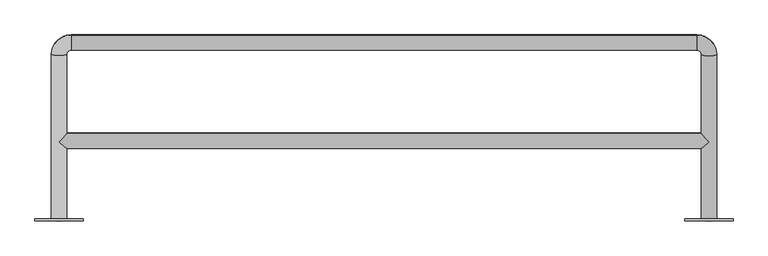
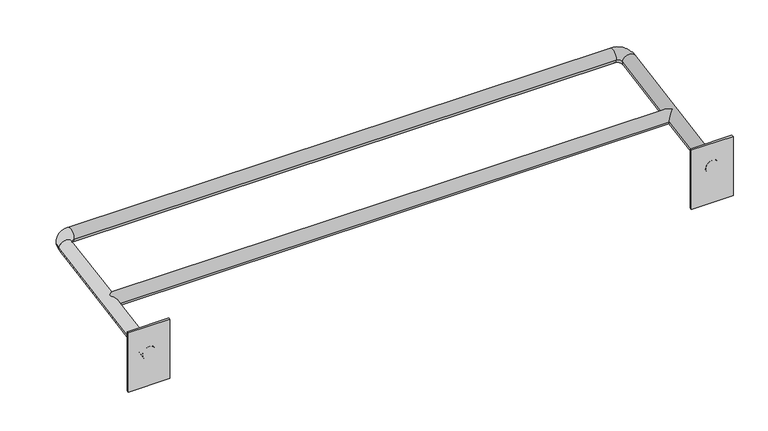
"""IFC4 building model written with IfcOpenShell, lengths in millimetres: proxy geometry, GMD-NON-HAA-Laundry Rack  for D-3 : GMD-NON-HAA-Metal Laundry Rack for D-3."""

import ifcopenshell
import ifcopenshell.guid

model = None  # the IFC model being written
_history = None  # IfcOwnerHistory: only IFC2X3 demands one
_inside = {}  # id of a spatial element -> (the spatial element, [elements in it])
_under = {}  # id of a project, library or spatial element -> (it, [spatial elements below it])
_declared = {}  # id of a project -> (the project, [libraries it declares])
_typed = {}  # id of a type object -> (the type object, [elements of that type])
_made_of = {}  # id of a material, layer set ... -> (it, [elements and type objects made of it])


def new_model(schema):
    """Start an empty IFC model of exactly this schema.

    Asked for "IFC4X3", IfcOpenShell would pick the latest addendum, in which some entities
    have other attributes; the version numbers below select the first issue.
    IFC2X3 requires an IfcOwnerHistory on every rooted entity: one is made here for all.
    """
    global model, _history
    if schema == "IFC4X3":
        model = ifcopenshell.file(schema_version=(4, 3, 0, 0))
    else:
        model = ifcopenshell.file(schema=schema)
    _inside.clear()
    _under.clear()
    _declared.clear()
    _typed.clear()
    _made_of.clear()
    _history = None
    if model.schema == "IFC2X3":
        org = make("IfcOrganization", Name="unknown")
        user = make(
            "IfcPersonAndOrganization",
            ThePerson=make("IfcPerson", FamilyName="unknown"),
            TheOrganization=org,
        )
        app = make(
            "IfcApplication",
            ApplicationDeveloper=org,
            Version="unknown",
            ApplicationFullName="unknown",
            ApplicationIdentifier="unknown",
        )
        _history = make(
            "IfcOwnerHistory",
            OwningUser=user,
            OwningApplication=app,
            ChangeAction="ADDED",
            CreationDate=0,
        )
    return model


def make(cls, **values):
    """One entity of the class cls with the attributes given. An attribute that is None is left unset."""
    return model.create_entity(
        cls, **{name: value for name, value in values.items() if value is not None}
    )


def rooted(cls, **values):
    """An entity with a GlobalId (a new one), such as an element, a storey or a relation."""
    return make(cls, GlobalId=ifcopenshell.guid.new(), OwnerHistory=_history, **values)


def si_unit(unit_type, name, prefix=None):
    """IfcSIUnit, for example si_unit("LENGTHUNIT", "METRE", prefix="MILLI")."""
    return make("IfcSIUnit", UnitType=unit_type, Prefix=prefix, Name=name)


def assignment(units):
    """IfcUnitAssignment: the units of a project."""
    return None if units is None else make("IfcUnitAssignment", Units=units)


def point(xyz):
    """IfcCartesianPoint."""
    return None if xyz is None else make("IfcCartesianPoint", Coordinates=xyz)


def direction(xyz):
    """IfcDirection."""
    return None if xyz is None else make("IfcDirection", DirectionRatios=xyz)


def frame(location, z_axis=None, x_axis=None):
    """IfcAxis2Placement3D, a coordinate frame: its origin and axes. An axis left out is left unset."""
    return make(
        "IfcAxis2Placement3D",
        Location=point(location),
        Axis=direction(z_axis),
        RefDirection=direction(x_axis),
    )


def origin():
    """The frame at (0, 0, 0) with its axes left unset."""
    return frame((0.0, 0.0, 0.0))


def place(relative_to, where):
    """IfcLocalPlacement: puts the frame where relative to a parent placement (None: the world)."""
    return make(
        "IfcLocalPlacement", PlacementRelTo=relative_to, RelativePlacement=where
    )


def context(
    kind, dimensions, precision=None, world=None, true_north=None, identifier=None
):
    """IfcGeometricRepresentationContext, for example the 3D "Model" context."""
    return make(
        "IfcGeometricRepresentationContext",
        ContextIdentifier=identifier,
        ContextType=kind,
        CoordinateSpaceDimension=dimensions,
        Precision=precision,
        WorldCoordinateSystem=world,
        TrueNorth=true_north,
    )


def project(units=None, contexts=None):
    """IfcProject with its units and contexts."""
    return rooted(
        "IfcProject",
        Name="project",
        RepresentationContexts=contexts,
        UnitsInContext=assignment(units),
    )


def spatial(cls, under=None, at=None, **own):
    """A site, building, storey or space (cls), placed at a placement, below another one or the project."""
    s = rooted(cls, ObjectPlacement=at, **own)
    if under is not None:
        _under.setdefault(under.id(), (under, []))[1].append(s)
    return s


def polyline(points):
    """IfcPolyline through the points."""
    return make("IfcPolyline", Points=[point(p) for p in points])


def circle_curve(where, radius):
    """IfcCircle in the frame where."""
    return make("IfcCircle", Position=where, Radius=radius)


def ellipse_curve(where, semi_axis1, semi_axis2):
    """IfcEllipse in the frame where."""
    return make(
        "IfcEllipse", Position=where, SemiAxis1=semi_axis1, SemiAxis2=semi_axis2
    )


def trimmed(basis, trim1, trim2, sense, master):
    """IfcTrimmedCurve: the piece of a basis curve between two trims."""
    return make(
        "IfcTrimmedCurve",
        BasisCurve=basis,
        Trim1=trim1,
        Trim2=trim2,
        SenseAgreement=sense,
        MasterRepresentation=master,
    )


def outline(outer, holes=None, kind="AREA"):
    """IfcArbitraryClosedProfileDef: a profile drawn as a closed curve; with holes, ...WithVoids."""
    if holes is None:
        return make("IfcArbitraryClosedProfileDef", ProfileType=kind, OuterCurve=outer)
    return make(
        "IfcArbitraryProfileDefWithVoids",
        ProfileType=kind,
        OuterCurve=outer,
        InnerCurves=holes,
    )


def extrude(swept, where, along, depth):
    """IfcExtrudedAreaSolid: the profile swept, set in the frame where, extruded along a direction by depth."""
    return make(
        "IfcExtrudedAreaSolid",
        SweptArea=swept,
        Position=where,
        ExtrudedDirection=direction(along),
        Depth=depth,
    )


def shape(context_of_items, identifier, shape_type, items):
    """IfcShapeRepresentation: the items that make up one representation, for example the "Body"."""
    return make(
        "IfcShapeRepresentation",
        ContextOfItems=context_of_items,
        RepresentationIdentifier=identifier,
        RepresentationType=shape_type,
        Items=items,
    )


def source(mapping_origin, context_of_items, identifier, shape_type, items):
    """IfcRepresentationMap: a shape defined once, which mapped items show again and again."""
    return make(
        "IfcRepresentationMap",
        MappingOrigin=mapping_origin,
        MappedRepresentation=shape(context_of_items, identifier, shape_type, items),
    )


def transform(
    local_origin,
    x_axis=None,
    y_axis=None,
    z_axis=None,
    scale=None,
    scale2=None,
    scale3=None,
    uniform=True,
):
    """IfcCartesianTransformationOperator3D, or its non-uniform kind. x_axis, y_axis, z_axis: its Axis1, 2, 3."""
    if uniform:
        return make(
            "IfcCartesianTransformationOperator3D",
            Axis1=direction(x_axis),
            Axis2=direction(y_axis),
            LocalOrigin=point(local_origin),
            Scale=scale,
            Axis3=direction(z_axis),
        )
    return make(
        "IfcCartesianTransformationOperator3DnonUniform",
        Axis1=direction(x_axis),
        Axis2=direction(y_axis),
        LocalOrigin=point(local_origin),
        Scale=scale,
        Axis3=direction(z_axis),
        Scale2=scale2,
        Scale3=scale3,
    )


def mapped(mapping_source, mapping_target):
    """IfcMappedItem: shows the shape of a source again, moved by a transform."""
    return make(
        "IfcMappedItem", MappingSource=mapping_source, MappingTarget=mapping_target
    )


def made_of(thing, what):
    """Note that an element or type object is made of a material, layer set ...; save() writes the relation."""
    if what is not None:
        _made_of.setdefault(what.id(), (what, []))[1].append(thing)
    return thing


def element(
    cls,
    number,
    at=None,
    inside=None,
    cuts=None,
    type_object=None,
    material=None,
    context=None,
    identifier="Body",
    shape_type=None,
    held_by="IfcProductDefinitionShape",
    body=None,
    shapes=None,
    **own,
):
    """One element of the class cls, such as IfcWall. Its Tag is "e" and its number.

    at: its placement. inside: the storey or other place that contains it. cuts: it is an
    opening in that element (IfcRelVoidsElement). A single representation is given by context,
    identifier, shape_type and body (its items); several are given by shapes. held_by: the class
    of the entity that holds the representations. save() writes the other relations.
    """
    e = rooted(cls, Tag="e%d" % number, ObjectPlacement=at, **own)
    if body is not None:
        shapes = [shape(context, identifier, shape_type, body)]
    if shapes is not None:
        e.Representation = make(held_by, Representations=shapes)
    if inside is not None:
        _inside.setdefault(inside.id(), (inside, []))[1].append(e)
    if cuts is not None:
        rooted(
            "IfcRelVoidsElement", RelatingBuildingElement=cuts, RelatedOpeningElement=e
        )
    if type_object is not None:
        _typed.setdefault(type_object.id(), (type_object, []))[1].append(e)
    return made_of(e, material)


def aggregate(whole, parts):
    """IfcRelAggregates: a whole, such as a stair, and the parts it consists of."""
    return rooted("IfcRelAggregates", RelatingObject=whole, RelatedObjects=parts)


def save(model, path):
    """Write the relations noted so far, then the file.

    IfcRelAggregates (storeys below a building ...), IfcRelContainedInSpatialStructure (elements
    in a storey), IfcRelDefinesByType, IfcRelAssociatesMaterial and IfcRelDeclares: one each for
    every whole, place, type object, material and project.
    """
    for whole, parts in _under.values():
        aggregate(whole, parts)
    for where, things in _inside.values():
        rooted(
            "IfcRelContainedInSpatialStructure",
            RelatedElements=things,
            RelatingStructure=where,
        )
    for kind, things in _typed.values():
        rooted("IfcRelDefinesByType", RelatedObjects=things, RelatingType=kind)
    for what, things in _made_of.values():
        rooted("IfcRelAssociatesMaterial", RelatedObjects=things, RelatingMaterial=what)
    for by, libraries in _declared.values():
        rooted("IfcRelDeclares", RelatingContext=by, RelatedDefinitions=libraries)
    model.write(path)


def plane_surface(at):
    """IfcPlane: the flat surface through the origin of the frame at, square to its z axis."""
    return make("IfcPlane", Position=at)


def cylinder_surface(at, radius):
    """IfcCylindricalSurface: all points at the distance radius from the z axis of the frame at."""
    return make("IfcCylindricalSurface", Position=at, Radius=radius)


def revolved_surface(curve, axis_point, axis_direction):
    """IfcSurfaceOfRevolution: the curve turned about the line through axis_point along axis_direction."""
    return make(
        "IfcSurfaceOfRevolution",
        SweptCurve=make("IfcArbitraryOpenProfileDef", ProfileType="CURVE", Curve=curve),
        AxisPosition=make("IfcAxis1Placement", Location=point(axis_point), Axis=direction(axis_direction)),
    )


def advanced_brep(points, edges, surfaces, faces):
    """IfcAdvancedBrep: a solid bounded by faces that lie on surfaces and meet in shared edges.

    An edge is (start, end): straight between two places in points (the first is 0);
    or (start, end, curve); or (start, end, curve, False) where it runs against its curve.
    A face is (place in surfaces, loops), or (place, loops, False) where it looks against
    its surface's normal. A loop lists edges by number (the first is 1), with a minus sign
    where the edge is run from its end to its start. The first loop is the outer one.
    """
    corners = [point(p) for p in points]
    vertices = [make("IfcVertexPoint", VertexGeometry=c) for c in corners]
    made = []
    for start, end, *more in edges:
        made.append(
            make(
                "IfcEdgeCurve",
                EdgeStart=vertices[start],
                EdgeEnd=vertices[end],
                EdgeGeometry=more[0] if more else make("IfcPolyline", Points=[corners[start], corners[end]]),
                SameSense=more[1] if len(more) > 1 else True,
            )
        )
    hull = []
    for where, loops, *sense in faces:
        bounds = []
        for j, loop in enumerate(loops):
            ring = [make("IfcOrientedEdge", EdgeElement=made[abs(k) - 1], Orientation=k > 0) for k in loop]
            bounds.append(
                make(
                    "IfcFaceOuterBound" if j == 0 else "IfcFaceBound",
                    Bound=make("IfcEdgeLoop", EdgeList=ring),
                    Orientation=True,
                )
            )
        hull.append(make("IfcAdvancedFace", Bounds=bounds, FaceSurface=surfaces[where], SameSense=sense[0] if sense else True))
    return make("IfcAdvancedBrep", Outer=make("IfcClosedShell", CfsFaces=hull))


def generic_models_a9f7fed1(model_context):
    return source(origin(), model_context, "Body", "SolidModel", [
        extrude(outline(polyline([(735.0, -65.0000015), (635.0, -65.0000015), (635.0, -60.0000015), (735.0, -60.0000015), (735.0, -65.0000015)])), frame((0.0, 0.0, 930.003651), z_axis=(0.0, 0.0, 1.0), x_axis=(1.0, 0.0, 0.0)), (0.0, 0.0, 1.0), 150.0),
        extrude(outline(polyline([(-615.0, -65.0), (-715.0, -65.0), (-715.0, -60.0), (-615.0, -60.0), (-615.0, -65.0)])), frame((0.0, 0.0, 938.82), z_axis=(0.0, 0.0, 1.0), x_axis=(1.0, 0.0, 0.0)), (0.0, 0.0, 1.0), 150.0),
        advanced_brep(
        [(-681.0, 281.8810732, 1082.4788167), (-649.0, 281.8810732, 1082.4788167), (-649.0, 118.2581456, 1053.6276799), (-665.0, 105.2795924, 1035.092385), (-649.0, 86.7442975, 1048.0709382), (-649.0, -65.0, 1021.3143244), (-681.0, -65.0, 1021.3143244), (-665.0, 99.7228507, 1066.6062331), (-640.0, 322.258191, 1089.598392), (-640.0, 290.7443429, 1084.0416503), (660.0, 322.258191, 1089.598392), (660.0, 290.7443429, 1084.0416503), (701.0, 281.8810732, 1082.4788167), (669.0, 281.8810732, 1082.4788167), (701.0, -65.0000015, 1021.3143242), (669.0, -65.0000015, 1021.3143242), (669.0, 86.7442975, 1048.0709382), (685.0, 105.2795924, 1035.092385), (669.0, 118.2581456, 1053.6276799), (685.0, 99.7228507, 1066.6062331)],
        [
            (0, 1, circle_curve(frame((-665.0, 281.8810732, 1082.4788167), z_axis=(0.0, -0.9848077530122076, -0.17364817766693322), x_axis=(1.0, 0.0, 0.0)), 16.0)),
            (1, 2),
            (2, 3, ellipse_curve(frame((-665.0, 102.5012215, 1050.8493091), z_axis=(-0.7071067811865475, 0.6963642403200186, 0.12278780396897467), x_axis=(-0.7071067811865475, -0.6963642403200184, -0.12278780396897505)), 22.627417, 16.0)),
            (3, 4, ellipse_curve(frame((-665.0, 102.5012215, 1050.8493091), z_axis=(-0.7071067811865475, -0.6963642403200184, -0.12278780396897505), x_axis=(0.7071067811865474, -0.6963642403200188, -0.1227878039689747)), 22.627417, 16.0)),
            (4, 5),
            (5, 6, ellipse_curve(frame((-665.0, -65.0, 1021.3143244), z_axis=(0.0, 1.0, 0.0), x_axis=(0.0, 0.0, -1.0)), 16.2468258, 16.0)),
            (6, 0),
            (1, 0, circle_curve(frame((-665.0, 281.8810732, 1082.4788167), z_axis=(0.0, -0.9848077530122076, -0.17364817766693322), x_axis=(1.0, 0.0, 0.0)), 16.0)),
            (6, 5, ellipse_curve(frame((-665.0, -65.0, 1021.3143244), z_axis=(0.0, 1.0, 0.0), x_axis=(0.0, 0.0, -1.0)), 16.2468258, 16.0)),
            (4, 7, ellipse_curve(frame((-665.0, 102.5012215, 1050.8493091), z_axis=(-0.7071067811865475, -0.6963642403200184, -0.12278780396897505), x_axis=(0.7071067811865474, -0.6963642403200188, -0.1227878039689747)), 22.627417, 16.0)),
            (7, 2, ellipse_curve(frame((-665.0, 102.5012215, 1050.8493091), z_axis=(-0.7071067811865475, 0.6963642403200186, 0.12278780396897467), x_axis=(-0.7071067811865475, -0.6963642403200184, -0.12278780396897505)), 22.627417, 16.0)),
            (0, 8, circle_curve(frame((-640.0, 281.8810732, 1082.4788167), z_axis=(0.0, 0.17364817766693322, -0.9848077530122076), x_axis=(-1.0, 0.0, 0.0)), 41.0)),
            (8, 9, circle_curve(frame((-640.0, 306.501267, 1086.8200212), z_axis=(-1.0, 0.0, 0.0), x_axis=(0.0, -0.9848077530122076, -0.17364817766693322)), 16.0)),
            (9, 1, circle_curve(frame((-640.0, 281.8810732, 1082.4788167), z_axis=(0.0, -0.17364817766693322, 0.9848077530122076), x_axis=(-1.0, 0.0, 0.0)), 9.0)),
            (9, 8, circle_curve(frame((-640.0, 306.501267, 1086.8200212), z_axis=(-1.0, 0.0, 0.0), x_axis=(0.0, -0.9848077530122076, -0.17364817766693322)), 16.0)),
            (8, 10),
            (10, 11, circle_curve(frame((660.0, 306.501267, 1086.8200212), z_axis=(-1.0, 0.0, 0.0), x_axis=(0.0, -0.9848077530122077, -0.1736481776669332)), 16.0)),
            (11, 9),
            (11, 10, circle_curve(frame((660.0, 306.501267, 1086.8200212), z_axis=(-1.0, 0.0, 0.0), x_axis=(0.0, -0.9848077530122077, -0.1736481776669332)), 16.0)),
            (10, 12, circle_curve(frame((660.0, 281.8810732, 1082.4788167), z_axis=(0.0, 0.17364817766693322, -0.9848077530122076), x_axis=(0.0, 0.9848077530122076, 0.17364817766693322)), 41.0)),
            (12, 13, circle_curve(frame((685.0, 281.8810732, 1082.4788167), z_axis=(0.0, 0.9848077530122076, 0.1736481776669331), x_axis=(-1.0, 0.0, 0.0)), 16.0)),
            (13, 11, circle_curve(frame((660.0, 281.8810732, 1082.4788167), z_axis=(0.0, -0.17364817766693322, 0.9848077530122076), x_axis=(0.0, 0.9848077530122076, 0.17364817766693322)), 9.0)),
            (13, 12, circle_curve(frame((685.0, 281.8810732, 1082.4788167), z_axis=(0.0, 0.9848077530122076, 0.1736481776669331), x_axis=(-1.0, 0.0, 0.0)), 16.0)),
            (12, 14),
            (14, 15, ellipse_curve(frame((685.0, -65.0000015, 1021.3143242), z_axis=(0.0, 1.0, 0.0), x_axis=(0.0, 0.0, 1.0)), 16.2468258, 16.0)),
            (15, 16),
            (16, 17, ellipse_curve(frame((685.0, 102.5012215, 1050.8493091), z_axis=(0.7071067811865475, -0.6963642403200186, -0.12278780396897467), x_axis=(0.7071067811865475, 0.6963642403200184, 0.12278780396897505)), 22.627417, 16.0)),
            (17, 18, ellipse_curve(frame((685.0, 102.5012215, 1050.8493091), z_axis=(0.7071067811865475, 0.6963642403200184, 0.12278780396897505), x_axis=(-0.7071067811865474, 0.6963642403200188, 0.1227878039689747)), 22.627417, 16.0)),
            (18, 13),
            (18, 19, ellipse_curve(frame((685.0, 102.5012215, 1050.8493091), z_axis=(0.7071067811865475, 0.6963642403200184, 0.12278780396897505), x_axis=(-0.7071067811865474, 0.6963642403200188, 0.1227878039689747)), 22.627417, 16.0)),
            (19, 16, ellipse_curve(frame((685.0, 102.5012215, 1050.8493091), z_axis=(0.7071067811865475, -0.6963642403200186, -0.12278780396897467), x_axis=(0.7071067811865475, 0.6963642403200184, 0.12278780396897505)), 22.627417, 16.0)),
            (15, 14, ellipse_curve(frame((685.0, -65.0000015, 1021.3143242), z_axis=(0.0, 1.0, 0.0), x_axis=(0.0, 0.0, 1.0)), 16.2468258, 16.0)),
            (2, 18),
            (16, 4),
        ],
        [
            cylinder_surface(frame((-665.0, -71.5290397, 1020.1630786), z_axis=(0.0, -0.9848077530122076, -0.17364817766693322), x_axis=(1.0, 0.0, 0.0)), 16.0),
            revolved_surface(trimmed(ellipse_curve(frame((-665.0, 281.8810732, 1082.4788167), z_axis=(0.0, -0.9848077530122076, -0.17364817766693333), x_axis=(1.0, 0.0, 0.0)), 16.0, 16.0), [point((-681.0, 281.8810732, 1082.4788167))], [point((-649.0, 281.8810732, 1082.4788167))], True, "CARTESIAN"), (-640.0, 283.3134466, 1074.3554235), (0.0, 0.17364817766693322, -0.9848077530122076)),
            revolved_surface(trimmed(ellipse_curve(frame((-665.0, 281.8810732, 1082.4788167), z_axis=(0.0, -0.9848077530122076, -0.17364817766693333), x_axis=(1.0, 0.0, 0.0)), 16.0, 16.0), [point((-649.0, 281.8810732, 1082.4788167))], [point((-681.0, 281.8810732, 1082.4788167))], True, "CARTESIAN"), (-640.0, 283.3134466, 1074.3554235), (0.0, 0.17364817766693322, -0.9848077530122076)),
            cylinder_surface(frame((-640.0, 306.501267, 1086.8200212), z_axis=(-1.0000000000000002, 0.0, 0.0), x_axis=(0.0, -0.9848077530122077, -0.1736481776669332)), 16.0),
            revolved_surface(trimmed(ellipse_curve(frame((660.0, 306.501267, 1086.8200212), z_axis=(-1.0, 0.0, 0.0), x_axis=(0.0, -0.9848077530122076, -0.17364817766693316)), 16.0, 16.0), [point((660.0, 322.258191, 1089.598392))], [point((660.0, 290.7443429, 1084.0416503))], True, "CARTESIAN"), (660.0, 283.3134466, 1074.3554235), (0.0, 0.17364817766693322, -0.9848077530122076)),
            revolved_surface(trimmed(ellipse_curve(frame((660.0, 306.501267, 1086.8200212), z_axis=(-1.0, 0.0, 0.0), x_axis=(0.0, -0.9848077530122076, -0.17364817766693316)), 16.0, 16.0), [point((660.0, 290.7443429, 1084.0416503))], [point((660.0, 322.258191, 1089.598392))], True, "CARTESIAN"), (660.0, 283.3134466, 1074.3554235), (0.0, 0.17364817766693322, -0.9848077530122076)),
            cylinder_surface(frame((685.0, 281.8810732, 1082.4788167), z_axis=(0.0, 0.9848077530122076, 0.17364817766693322), x_axis=(-1.0, 0.0, 0.0)), 16.0),
            plane_surface(frame((-615.0, -65.0, 1088.82), z_axis=(0.0, -1.0, 0.0), x_axis=(0.0, 0.0, -1.0))),
            plane_surface(frame((635.0, -65.0000015, 1080.003651), z_axis=(0.0, -1.0, 0.0), x_axis=(1.0, 0.0, 0.0))),
            cylinder_surface(frame((-665.0, 102.5012215, 1050.8493089), z_axis=(-1.0, 0.0, 0.0), x_axis=(0.0, -0.9848077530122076, -0.17364817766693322)), 16.0),
        ],
        [
            (0, [[1, 2, 3, 4, 5, 6, 7]]),
            (0, [[8, -7, 9, -5, 10, 11, -2]]),
            (1, [[-1, 12, 13, 14]]),
            (2, [[-8, -14, 15, -12]]),
            (3, [[-13, 16, 17, 18]]),
            (3, [[-15, -18, 19, -16]]),
            (4, [[-17, 20, 21, 22]]),
            (5, [[-19, -22, 23, -20]]),
            (6, [[-21, 24, 25, 26, 27, 28, 29]]),
            (6, [[-23, -29, 30, 31, -26, 32, -24]]),
            (7, [[-6, -9]]),
            (8, [[-25, -32]]),
            (9, [[33, -28, -27, 34, -4, -3]]),
            (9, [[-33, -11, -10, -34, -31, -30]]),
        ],
    ),
    ])


if __name__ == "__main__":
    model = new_model("IFC4")
    model_context = context("Model", 3, world=origin())
    ifc_project = project(units=[si_unit("LENGTHUNIT", "METRE", prefix="MILLI")], contexts=[model_context])
    site = spatial("IfcSite", under=ifc_project)
    building = spatial("IfcBuilding", under=site)
    placement = place(None, origin())
    generic_models_shape = generic_models_a9f7fed1(model_context)
    element("IfcBuildingElementProxy", 1, Name="GMD-NON-HAA-Laundry Rack  for D-3 : GMD-NON-HAA-Metal Laundry Rack for D-3", ObjectType="GMD-NON-HAA-Laundry Rack  for D-3 : GMD-NON-HAA-Metal Laundry Rack for D-3", at=placement, inside=building, context=model_context, shape_type="MappedRepresentation", body=[
        mapped(generic_models_shape, transform((0.0, 0.0, 0.0), x_axis=(1.0, 0.0, 0.0), y_axis=(0.0, 1.0, 0.0), z_axis=(0.0, 0.0, 1.0))),
    ])
    save(model, "model.ifc")
